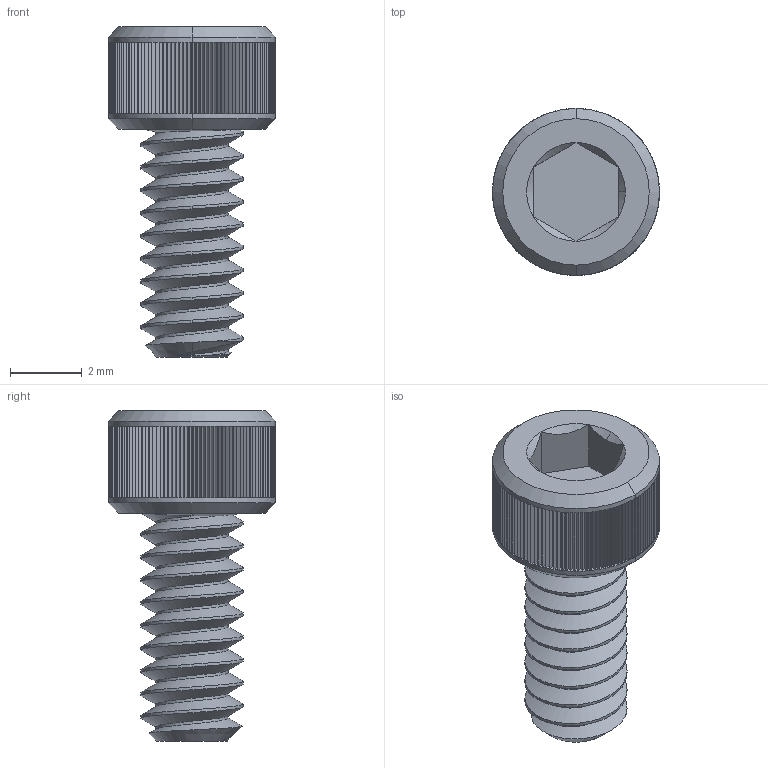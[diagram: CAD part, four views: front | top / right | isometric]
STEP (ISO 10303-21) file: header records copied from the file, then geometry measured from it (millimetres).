
FILE_DESCRIPTION (( 'STEP AP203' ), '1' );
FILE_NAME ('91251A106_Black-Oxide Alloy Steel Socket Head Screw.STEP', '2021-09-08T13:18:21', ( 'Administrator' ), ( 'Managed by Terraform' ), 'SwSTEP 2.0', 'SolidWorks 2017', '' );
FILE_SCHEMA (( 'CONFIG_CONTROL_DESIGN' ));
Length unit declared in the file: inch
Products named in the file (1): 91251A106_Black-Oxide Alloy Steel Socket Head Screw
Bounding box: 4.65 x 4.65 x 9.19 mm (x, y, z)
Volume: 68.3 mm3; surface area: 201.9 mm2
Topology: 1 solids, 1 shells, 551 faces, 1251 edges, 828 vertices
Faces by surface type: plane 510, cylinder 21, cone 17, bspline 3
Entity records: 16668 total; most frequent: CARTESIAN_POINT 4035, DIRECTION 2564, ORIENTED_EDGE 2502, EDGE_CURVE 1251, LINE 918, VECTOR 918, VERTEX_POINT 828, AXIS2_PLACEMENT_3D 823
